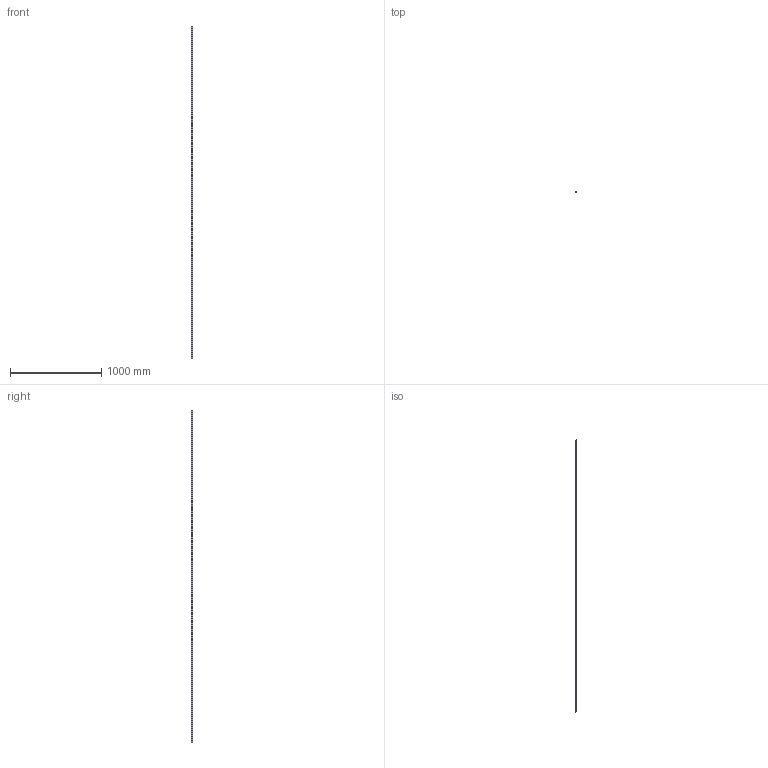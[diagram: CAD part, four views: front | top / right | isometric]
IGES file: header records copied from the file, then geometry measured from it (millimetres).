
Start section: SolidWorks IGES file using analytic representation for surfaces
Global section: file name: C:\Users\IanO\Desktop\L1016_v2\L1016.BL15_v2\L1016.BL15_v2_20190611_IGES\L1016.BL15-3640.igs; native system: SolidWorks 2017; preprocessor: SolidWorks 2017; author: IanO; date: 190612.123715; units: millimetre
Bounding box: 15 x 13 x 3640 mm (x, y, z)
Surface area: 222213.2 mm2 (no closed solid volume)
Topology: 0 solids, 0 shells, 331 faces, 8936 edges, 8936 vertices
Faces by surface type: revolution 248, bspline 83
